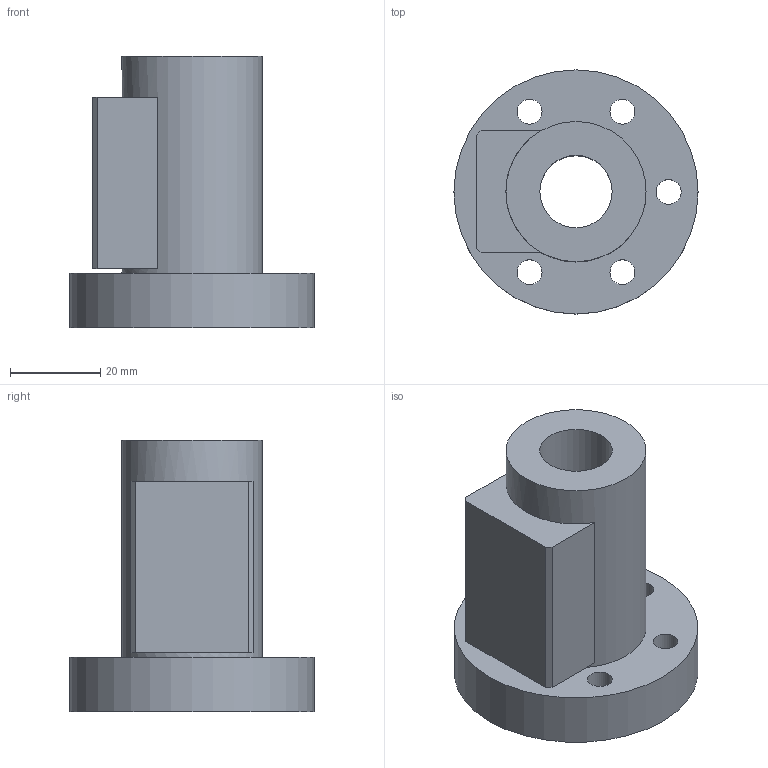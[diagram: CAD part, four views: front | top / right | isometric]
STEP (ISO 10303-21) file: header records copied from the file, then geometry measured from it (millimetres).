
FILE_DESCRIPTION(/* description */ (''),/* implementation_level */ '2;1');
FILE_NAME(/* name */ '16-5B2',/* time_stamp */ '2006-06-16T09:37:29+08:00',/* author */ (''),/* organization */ (''),/* preprocessor_version */ 'ST-DEVELOPER v9',/* originating_system */ 'UGS - NX 4.0',/* authorisation */ '');
FILE_SCHEMA (('CONFIG_CONTROL_DESIGN'));
Length unit declared in the file: millimetre
Products named in the file (1): 16-5B2
Bounding box: 54 x 54 x 60 mm (x, y, z)
Volume: 57902.1 mm3; surface area: 16351.1 mm2
Topology: 1 solids, 1 shells, 28 faces, 61 edges, 42 vertices
Faces by surface type: plane 15, cylinder 13
Full cylindrical faces by diameter (mm): 5.5 x5, 9.5 x5, 16 x1, 31 x1, 54 x1
Entity records: 794 total; most frequent: DIRECTION 130, CARTESIAN_POINT 111, ORIENTED_EDGE 88, EDGE_LOOP 60, AXIS2_PLACEMENT_3D 57, FACE_BOUND 45, EDGE_CURVE 44, VERTEX_POINT 38
